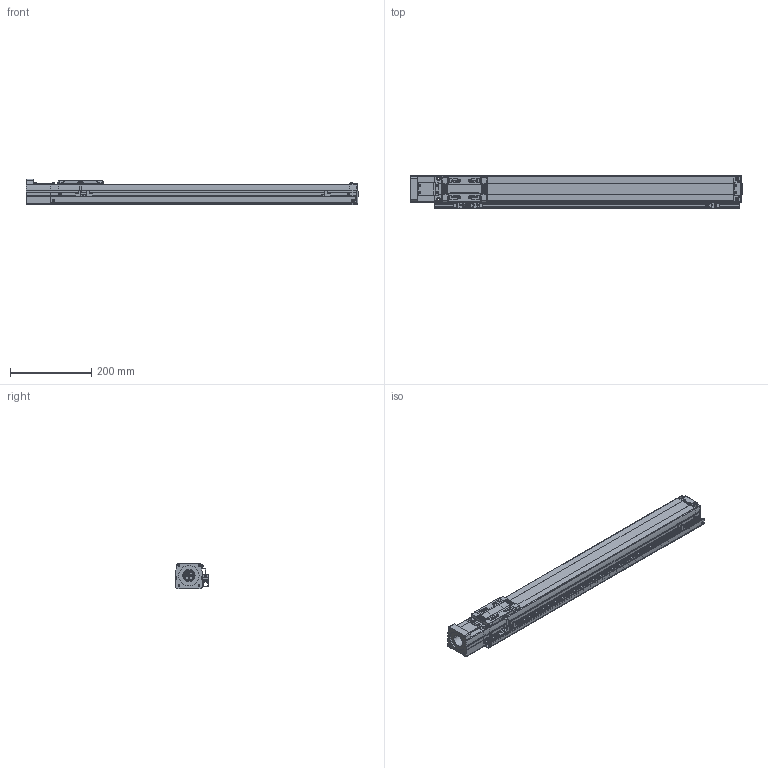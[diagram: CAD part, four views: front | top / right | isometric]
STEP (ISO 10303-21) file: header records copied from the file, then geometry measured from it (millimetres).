
FILE_DESCRIPTION(('STEP AP203'),'1');
FILE_NAME('Z:/Web/3D/SAN65/2012.ver/STP/600/SAN65ㅁㅁ-600S+3SR.stp','2014-06-13T06:44:09',(' '),(' '),'Spatial InterOp 3D',' ',' ');
FILE_SCHEMA(('CONFIG_CONTROL_DESIGN'));
Length unit declared in the file: millimetre
Products named in the file (74): 1; 2; 3; 4; 5; 6; 7; 8; 9; 10; 11; 12; 13; 14; 15; 16; 17; 18; 19; 20; 21; 22; 23; 24; 25; 26; 27; 28; 29; 30; 31; 32; 33; 34; 35; 36; 37; 38; 39; 40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
Bounding box: 816.15 x 82.06 x 62 mm (x, y, z)
Volume: 2657967.8 mm3; surface area: 392436.7 mm2
Topology: 74 solids, 74 shells, 2861 faces, 7505 edges, 4852 vertices
Faces by surface type: plane 1437, cylinder 966, cone 348, sphere 56, bspline 28, torus 20, extrusion 6
Full cylindrical faces by diameter (mm): 2.132 x1, 3.5 x2, 6 x2
Entity records: 94971 total; most frequent: CARTESIAN_POINT 19238, DIRECTION 15696, ORIENTED_EDGE 14802, EDGE_CURVE 7401, AXIS2_PLACEMENT_3D 5630, VERTEX_POINT 4851, VECTOR 4436, LINE 4430
